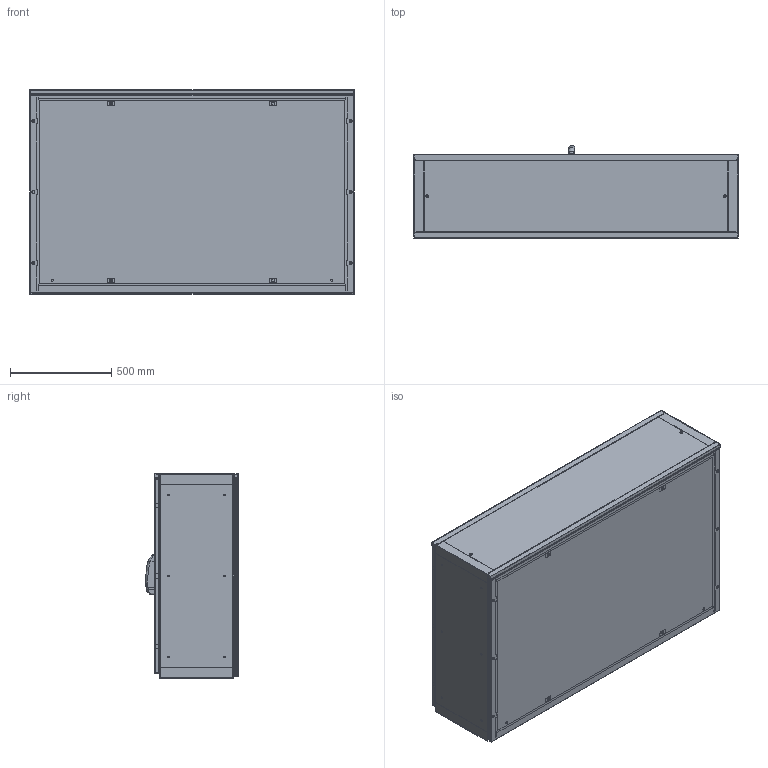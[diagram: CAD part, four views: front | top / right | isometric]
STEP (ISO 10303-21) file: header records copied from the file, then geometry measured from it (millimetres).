
FILE_DESCRIPTION (( 'STEP AP203' ), '1' );
FILE_NAME ('EMOX161004PR.STEP', '2025-06-03T09:50:09', ( '' ), ( '' ), 'SwSTEP 2.0', 'SolidWorks 2022', '' );
FILE_SCHEMA (( 'CONFIG_CONTROL_DESIGN' ));
Length unit declared in the file: millimetre
Products named in the file (10): EMOX161004PR; AR_EMOX_Tegolino_1600x0100; AR_EMOX_struttura_1600x1000x0400; AR_EMOX_Porta_CB_2.0_1600x1000_ANT_DX; AR_EMOX_Porta_IB_2.0_1600x1000_ANT; AR_ENUX_nuova_maniglia_mesan; AR_EMOX_Piastra_frontale_3.0_1600x1000; AR_EMOX_montaggio_porta_IB_2.0_1600x1000_ANT_DX; AR_EMOX_Tegolino_1600x0050; AR_EMOX_Retro_singolo_1600x1000
Assembly tree (13 placements, depth 3):
  EMOX161004PR
    AR_EMOX_struttura_1600x1000x0400
    AR_EMOX_Retro_singolo_1600x1000
    AR_EMOX_Piastra_frontale_3.0_1600x1000
    AR_EMOX_montaggio_porta_IB_2.0_1600x1000_ANT_DX
      AR_EMOX_Porta_IB_2.0_1600x1000_ANT
      AR_ENUX_nuova_maniglia_mesan
    AR_EMOX_Porta_CB_2.0_1600x1000_ANT_DX
    AR_EMOX_Tegolino_1600x0050  x4
    AR_EMOX_Tegolino_1600x0100  x2
Bounding box: 1600 x 456.5 x 1009 mm (x, y, z)
Volume: 16184168 mm3; surface area: 17321671.5 mm2
Topology: 12 solids, 12 shells, 2603 faces, 7063 edges, 4486 vertices
Faces by surface type: plane 1512, cylinder 946, cone 46, torus 43, bspline 29, sphere 27
Entity records: 80524 total; most frequent: CARTESIAN_POINT 16918, DIRECTION 12925, ORIENTED_EDGE 12880, EDGE_CURVE 6440, VECTOR 4391, LINE 4391, AXIS2_PLACEMENT_3D 4267, VERTEX_POINT 4166
